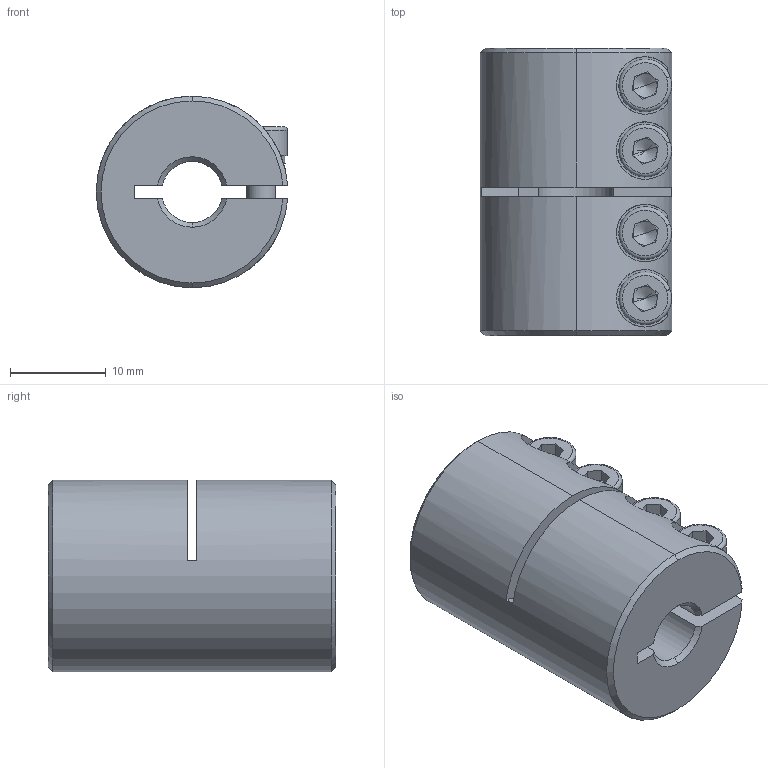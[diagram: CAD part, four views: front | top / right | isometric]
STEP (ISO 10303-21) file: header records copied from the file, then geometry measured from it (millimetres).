
FILE_DESCRIPTION (( 'STEP AP203' ), '1' );
FILE_NAME ('LL-B-D20L30-6.35-8.STEP', '2021-11-05T03:15:19', ( '' ), ( '' ), 'SwSTEP 2.0', 'SolidWorks 2018', '' );
FILE_SCHEMA (( 'CONFIG_CONTROL_DESIGN' ));
Length unit declared in the file: millimetre
Products named in the file (1): LL-B-D20L30-6.35-8
Bounding box: 19.98 x 30 x 20 mm (x, y, z)
Volume: 7534.5 mm3; surface area: 4546.9 mm2
Topology: 1 solids, 1 shells, 178 faces, 459 edges, 287 vertices
Faces by surface type: plane 89, cylinder 61, cone 20, torus 8
Entity records: 5821 total; most frequent: CARTESIAN_POINT 1349, DIRECTION 958, ORIENTED_EDGE 902, EDGE_CURVE 451, AXIS2_PLACEMENT_3D 368, VERTEX_POINT 287, VECTOR 222, LINE 222
